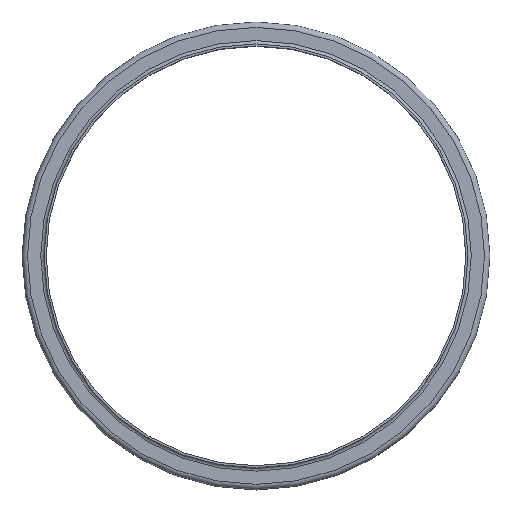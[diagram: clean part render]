
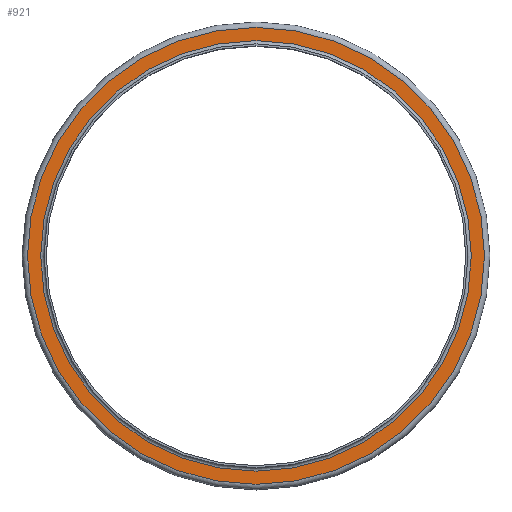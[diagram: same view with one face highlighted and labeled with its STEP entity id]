
A CAD part, top view. The second image highlights one B-rep face of the part: STEP entity #921.
In plain terms, the highlighted planar face has unit normal (0, 0, 1).
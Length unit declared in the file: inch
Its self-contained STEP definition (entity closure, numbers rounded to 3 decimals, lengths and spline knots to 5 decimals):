
#98=FACE_BOUND('',#272,.T.);
#165=FACE_OUTER_BOUND('',#271,.T.);
#271=EDGE_LOOP('',(#772));
#272=EDGE_LOOP('',(#773));
#385=CIRCLE('',#1110,12.31);
#386=CIRCLE('',#1112,13.065);
#466=VERTEX_POINT('',#1734);
#467=VERTEX_POINT('',#1738);
#571=EDGE_CURVE('',#466,#466,#385,.T.);
#572=EDGE_CURVE('',#467,#467,#386,.T.);
#772=ORIENTED_EDGE('',*,*,#572,.F.);
#773=ORIENTED_EDGE('',*,*,#571,.T.);
#854=PLANE('',#1111);
#921=ADVANCED_FACE('',(#165,#98),#854,.T.);
#1110=AXIS2_PLACEMENT_3D('',#1736,#1446,#1447);
#1111=AXIS2_PLACEMENT_3D('',#1737,#1448,#1449);
#1112=AXIS2_PLACEMENT_3D('',#1739,#1450,#1451);
#1446=DIRECTION('center_axis',(0.,0.,-1.));
#1447=DIRECTION('ref_axis',(1.,0.,0.));
#1448=DIRECTION('center_axis',(0.,0.,1.));
#1449=DIRECTION('ref_axis',(1.,0.,0.));
#1450=DIRECTION('center_axis',(0.,0.,-1.));
#1451=DIRECTION('ref_axis',(1.,0.,0.));
#1734=CARTESIAN_POINT('',(12.31,0.,-0.19));
#1736=CARTESIAN_POINT('Origin',(0.,0.,-0.19));
#1737=CARTESIAN_POINT('Origin',(0.,13.065,-0.19));
#1738=CARTESIAN_POINT('',(13.065,0.,-0.19));
#1739=CARTESIAN_POINT('Origin',(0.,0.,-0.19));
